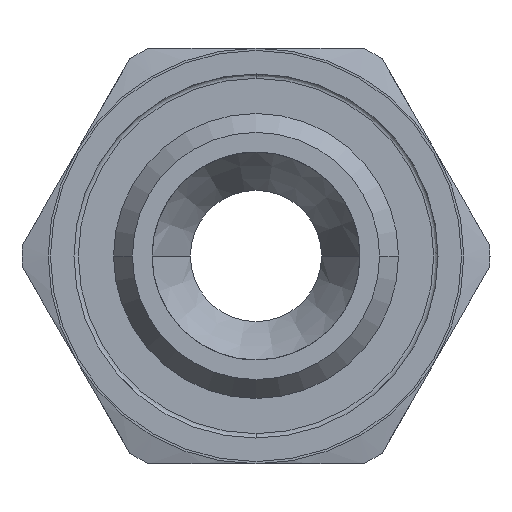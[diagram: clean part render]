
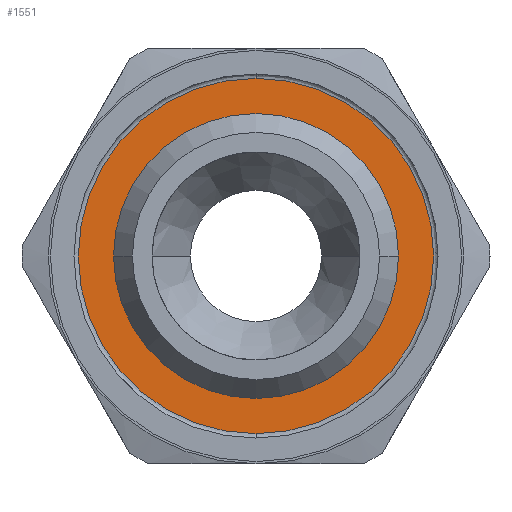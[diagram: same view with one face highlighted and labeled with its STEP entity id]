
A CAD part, left-side view. The second image highlights one B-rep face of the part: STEP entity #1551.
In plain terms, the highlighted planar face has unit normal (-1, 0, 0) as drawn and (0, 0, 1) by its records, which use the part's own axes.
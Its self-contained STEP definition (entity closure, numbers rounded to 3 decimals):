
#847=CARTESIAN_POINT('',(6.05,0.,3.25));
#848=VERTEX_POINT('',#847);
#856=CARTESIAN_POINT('',(-6.05,0.,3.25));
#857=VERTEX_POINT('',#856);
#858=CARTESIAN_POINT('',(0.,0.,3.25));
#859=DIRECTION('',(0.0,0.0,1.0));
#860=DIRECTION('',(0.0,-1.0,0.0));
#861=AXIS2_PLACEMENT_3D('',#858,#859,#860);
#862=CIRCLE('',#861,6.05);
#863=EDGE_CURVE('',#848,#857,#862,.T.);
#940=CARTESIAN_POINT('',(8.125,0.,3.25));
#941=VERTEX_POINT('',#940);
#967=CARTESIAN_POINT('',(-8.125,0.,3.25));
#968=VERTEX_POINT('',#967);
#976=CARTESIAN_POINT('',(0.,0.,3.25));
#977=DIRECTION('',(0.0,0.0,1.0));
#978=DIRECTION('',(0.0,-1.0,0.0));
#979=AXIS2_PLACEMENT_3D('',#976,#977,#978);
#980=CIRCLE('',#979,8.125);
#981=EDGE_CURVE('',#941,#968,#980,.T.);
#1500=CARTESIAN_POINT('',(0.,-8.125,3.25));
#1501=VERTEX_POINT('',#1500);
#1502=CARTESIAN_POINT('',(0.,0.,3.25));
#1503=DIRECTION('',(0.0,0.0,1.0));
#1504=DIRECTION('',(0.0,-1.0,0.0));
#1505=AXIS2_PLACEMENT_3D('',#1502,#1503,#1504);
#1506=CIRCLE('',#1505,8.125);
#1507=EDGE_CURVE('',#1501,#941,#1506,.T.);
#1509=CARTESIAN_POINT('',(0.,0.,3.25));
#1510=DIRECTION('',(0.0,0.0,1.0));
#1511=DIRECTION('',(0.0,-1.0,0.0));
#1512=AXIS2_PLACEMENT_3D('',#1509,#1510,#1511);
#1513=CIRCLE('',#1512,8.125);
#1514=EDGE_CURVE('',#968,#1501,#1513,.T.);
#1522=CARTESIAN_POINT('',(0.,-7.088,3.25));
#1523=DIRECTION('',(0.0,0.0,1.0));
#1524=DIRECTION('',(-1.0,0.0,0.0));
#1525=AXIS2_PLACEMENT_3D('',#1522,#1523,#1524);
#1526=PLANE('',#1525);
#1527=ORIENTED_EDGE('',*,*,#1507,.T.);
#1528=ORIENTED_EDGE('',*,*,#981,.T.);
#1529=ORIENTED_EDGE('',*,*,#1514,.T.);
#1530=EDGE_LOOP('',(#1527,#1528,#1529));
#1531=FACE_OUTER_BOUND('',#1530,.T.);
#1532=CARTESIAN_POINT('',(0.,-6.05,3.25));
#1533=VERTEX_POINT('',#1532);
#1534=CARTESIAN_POINT('',(0.,0.,3.25));
#1535=DIRECTION('',(0.0,0.0,1.0));
#1536=DIRECTION('',(0.0,-1.0,0.0));
#1537=AXIS2_PLACEMENT_3D('',#1534,#1535,#1536);
#1538=CIRCLE('',#1537,6.05);
#1539=EDGE_CURVE('',#1533,#848,#1538,.T.);
#1540=ORIENTED_EDGE('',*,*,#1539,.F.);
#1541=CARTESIAN_POINT('',(0.,0.,3.25));
#1542=DIRECTION('',(0.0,0.0,1.0));
#1543=DIRECTION('',(0.0,-1.0,0.0));
#1544=AXIS2_PLACEMENT_3D('',#1541,#1542,#1543);
#1545=CIRCLE('',#1544,6.05);
#1546=EDGE_CURVE('',#857,#1533,#1545,.T.);
#1547=ORIENTED_EDGE('',*,*,#1546,.F.);
#1548=ORIENTED_EDGE('',*,*,#863,.F.);
#1549=EDGE_LOOP('',(#1540,#1547,#1548));
#1550=FACE_BOUND('',#1549,.T.);
#1551=ADVANCED_FACE('',(#1531,#1550),#1526,.T.);
